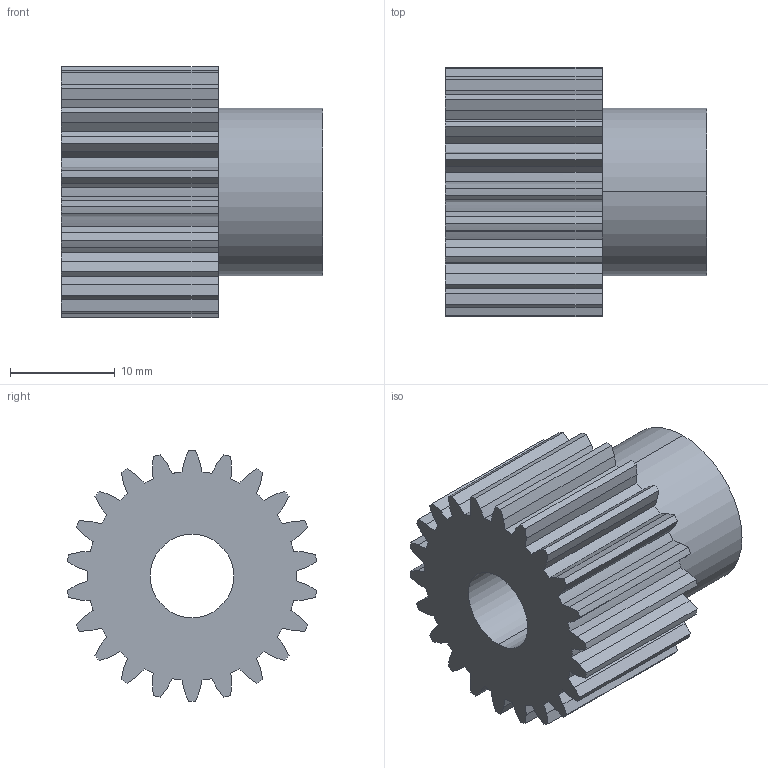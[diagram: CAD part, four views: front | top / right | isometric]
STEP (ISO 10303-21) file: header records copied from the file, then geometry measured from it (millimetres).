
FILE_DESCRIPTION (( 'STEP AP203' ), '1' );
FILE_NAME ('PM 26022.STEP', '2013-09-23T12:26:45', ( '' ), ( '' ), 'SwSTEP 2.0', 'SolidWorks 2010', '' );
FILE_SCHEMA (( 'CONFIG_CONTROL_DESIGN' ));
Length unit declared in the file: millimetre
Products named in the file (1): PM 26022
Bounding box: 25 x 23.84 x 24 mm (x, y, z)
Volume: 6376.8 mm3; surface area: 3726.6 mm2
Topology: 1 solids, 1 shells, 139 faces, 408 edges, 272 vertices
Faces by surface type: plane 91, cylinder 48
Entity records: 4701 total; most frequent: CARTESIAN_POINT 829, ORIENTED_EDGE 816, DIRECTION 780, EDGE_CURVE 408, LINE 310, VECTOR 310, VERTEX_POINT 272, AXIS2_PLACEMENT_3D 235
